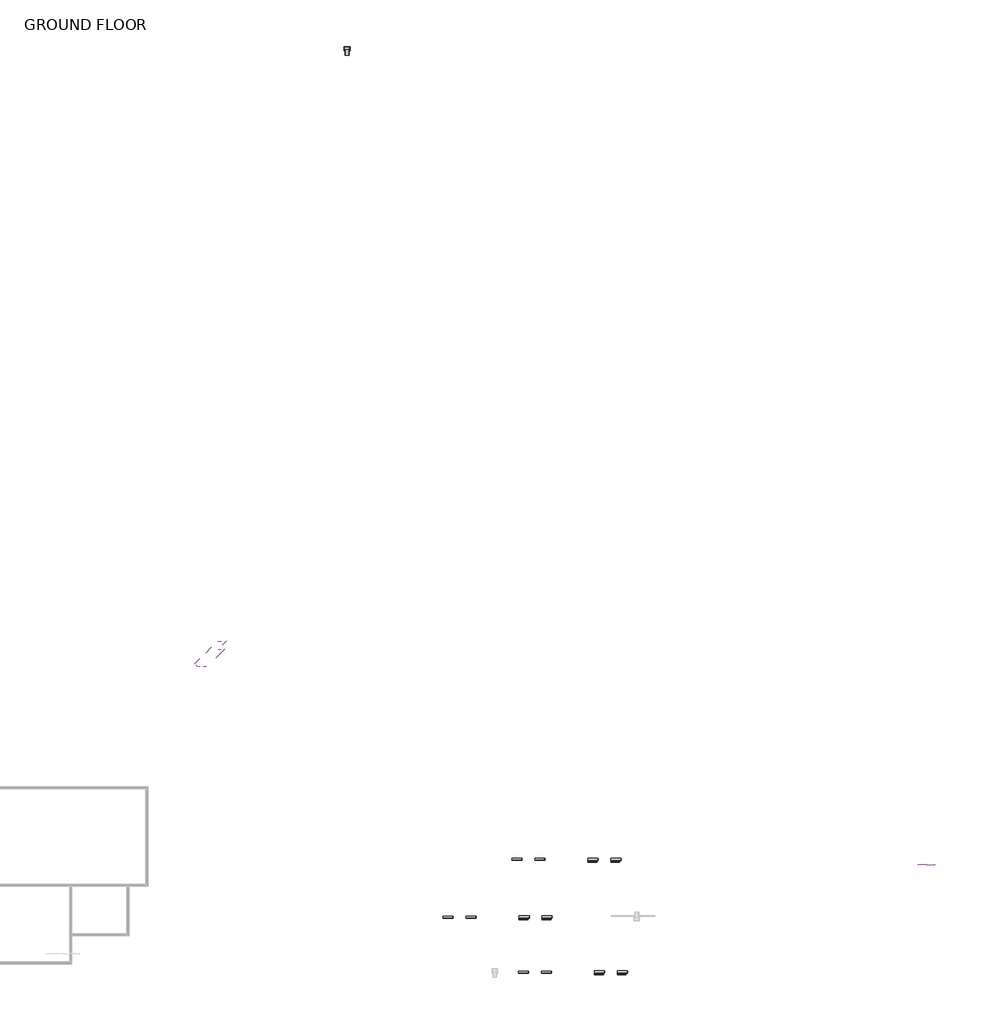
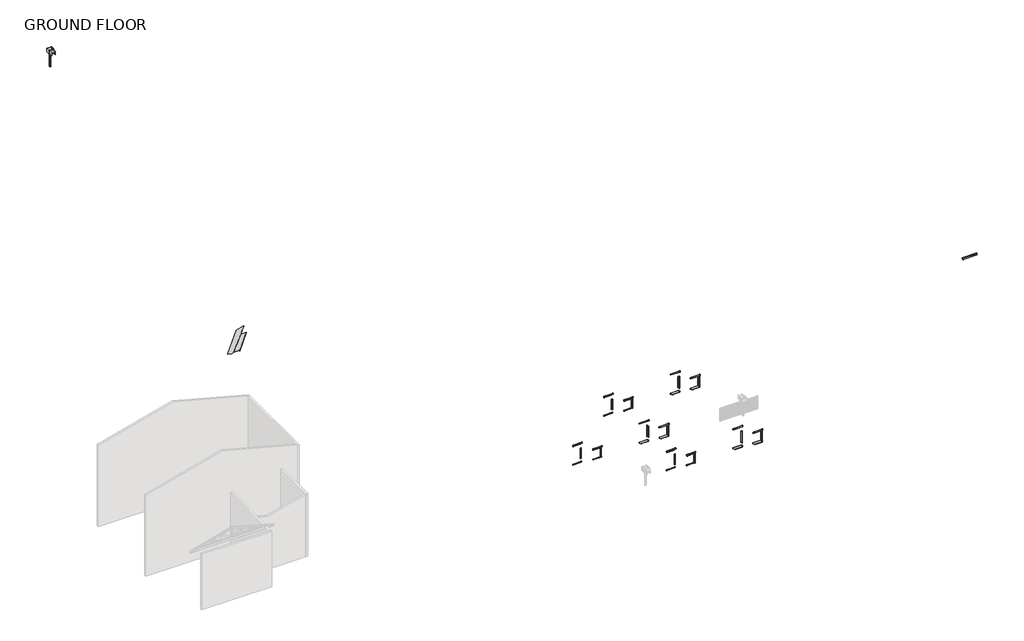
# One storey, part 2 of 2: 47 proxies, 1 furniture element.
"""IFC4 building model written with IfcOpenShell, lengths in millimetres."""

from ifc_helpers import new_model, si_unit, origin, place, context, project, spatial, transform, mapped, element, save
from components import generic_models_fef78faf, compressible_foam_seal2_compressible_foam_seal_1ec0a699, compressible_foam_seal3_compressible_foam_seal_00045a2d, compressible_foam_seal4_compressible_foam_seal_b4c7230d, compressible_foam_seal5_compressible_foam_seal_15a1a777, compressible_foam_seal6_compressible_foam_seal_03053069, compressible_foam_seal7_compressible_foam_seal_46f58d89, flashing_recessed_window_jamb10_flashing_recessed_window_f6a35a29, flashing_recessed_window_jamb11_flashing_recessed_window_a8076ed2, flashing_recessed_window_jamb12_flashing_recessed_window_df369252, flashing_recessed_window_jamb13_flashing_recessed_window_1e06e09a, flashing_recessed_window_jamb14_flashing_recessed_window_10f6c336, flashing_recessed_window_jamb15_flashing_recessed_window_f5ba4824, flashing_recessed_window_jamb16_flashing_recessed_window_d55ca905, flashing_recessed_window_jamb3_flashing_recessed_window_jamb_ab1162f4, flashing_recessed_window_jamb5_flashing_recessed_window_jamb_ac1279b0, flashing_recessed_window_jamb7_flashing_recessed_window_jamb_bc847796, flashing_recessed_window_jamb8_flashing_recessed_window_jamb_318b466f, flashing_recessed_window_jamb9_flashing_recessed_window_jamb_3639ca6a, flush_window_seal_stop_end1_flush_window_seal_stop_end_9bf39d72, flush_window_sill_end1_flush_window_sill_end_4a2a89ea, flush_window_sill_end2_flush_window_sill_end_b6536fee, roof_b_apron_flashing_11_roof_b_apron_flashing_70cea629, roof_b_apron_flashing_15_roof_b_apron_flashing_0355cb7b, roof_b_apron_flashing_16_roof_b_apron_flashing_46ff3092, roof_b_apron_flashing_17_roof_b_apron_flashing_6cb279cc, roof_b_apron_flashing_18_roof_b_apron_flashing_e1c903fb, roof_b_apron_flashing_19_roof_b_apron_flashing_c7f32d68, roof_b_apron_flashing_20_roof_b_apron_flashing_f2a83171, roof_b_apron_flashing_21_roof_b_apron_flashing_e3cc5609, roof_b_apron_flashing_22_roof_b_apron_flashing_11900506, roof_b_apron_flashing_23_roof_b_apron_flashing_f3549268, roof_b_apron_flashing_24_roof_b_apron_flashing_b4c4b611, roof_b_apron_flashing_25_roof_b_apron_flashing_de8b362f, roof_b_apron_flashing_26_roof_b_apron_flashing_4fb7a4d9, roof_b_apron_flashing_27_roof_b_apron_flashing_a0986a9a, roof_b_apron_flashing_28_roof_b_apron_flashing_59df76a3, roof_b_apron_flashing_29_roof_b_apron_flashing_f9d48720, roof_b_apron_flashing_30_roof_b_apron_flashing_073e667e, roof_b_apron_flashing_31_roof_b_apron_flashing_949d8b79, roof_b_apron_flashing_32_roof_b_apron_flashing_3b1e6633, roof_b_apron_flashing_33_roof_b_apron_flashing_7a0176cb, roof_b_apron_flashing_34_roof_b_apron_flashing_aff7704c, roof_b_apron_flashing_4_roof_b_apron_flashing_d52b1472, roof_b_apron_flashing_7_roof_b_apron_flashing_a06f71b5, roof_b_apron_flashing_9_roof_b_apron_flashing_62092195, roof_b_hip_flashing_7_roof_b_hip_flashing_3261cca3, casework_4_casework_1_e42cd1c2

model = new_model("IFC4")

# Units and contexts
model_context = context("Model", 3, world=origin())
ifc_project = project(units=[si_unit("LENGTHUNIT", "METRE", prefix="MILLI")], contexts=[model_context])

# Site, building, storey
site = spatial("IfcSite", under=ifc_project)
building = spatial("IfcBuilding", under=site)
storey = spatial("IfcBuildingStorey", under=building, Name="GROUND FLOOR", Elevation=0.0)

# Proxies
placement = place(None, origin())
generic_models_shape = generic_models_fef78faf(model_context)
element("IfcBuildingElementProxy", 1, Name="Translucent Sheet Stopend Flashing1 : Translucent Sheet Stopend Flashing", ObjectType="Translucent Sheet Stopend Flashing1 : Translucent Sheet Stopend Flashing", at=placement, inside=storey, context=model_context, shape_type="MappedRepresentation", body=[
    mapped(generic_models_shape, transform((0.0, 0.0, 0.0), x_axis=(1.0, 0.0, 0.0), y_axis=(0.0, 1.0, 0.0), z_axis=(0.0, 0.0, 1.0))),
])
compressible_foam_seal2_compressible_foam_seal_shape = compressible_foam_seal2_compressible_foam_seal_1ec0a699(model_context)
element("IfcBuildingElementProxy", 2, Name="Compressible foam seal2 : Compressible foam seal", ObjectType="Compressible foam seal2 : Compressible foam seal", at=placement, inside=storey, context=model_context, shape_type="MappedRepresentation", body=[
    mapped(compressible_foam_seal2_compressible_foam_seal_shape, transform((0.0, 0.0, 0.0), x_axis=(1.0, 0.0, 0.0), y_axis=(0.0, 1.0, 0.0), z_axis=(0.0, 0.0, 1.0))),
])
compressible_foam_seal3_compressible_foam_seal_shape = compressible_foam_seal3_compressible_foam_seal_00045a2d(model_context)
element("IfcBuildingElementProxy", 3, Name="Compressible foam seal3 : Compressible foam seal", ObjectType="Compressible foam seal3 : Compressible foam seal", at=placement, inside=storey, context=model_context, shape_type="MappedRepresentation", body=[
    mapped(compressible_foam_seal3_compressible_foam_seal_shape, transform((0.0, 0.0, 0.0), x_axis=(1.0, 0.0, 0.0), y_axis=(0.0, 1.0, 0.0), z_axis=(0.0, 0.0, 1.0))),
])
compressible_foam_seal4_compressible_foam_seal_shape = compressible_foam_seal4_compressible_foam_seal_b4c7230d(model_context)
element("IfcBuildingElementProxy", 4, Name="Compressible foam seal4 : Compressible foam seal", ObjectType="Compressible foam seal4 : Compressible foam seal", at=placement, inside=storey, context=model_context, shape_type="MappedRepresentation", body=[
    mapped(compressible_foam_seal4_compressible_foam_seal_shape, transform((0.0, 0.0, 0.0), x_axis=(1.0, 0.0, 0.0), y_axis=(0.0, 1.0, 0.0), z_axis=(0.0, 0.0, 1.0))),
])
compressible_foam_seal5_compressible_foam_seal_shape = compressible_foam_seal5_compressible_foam_seal_15a1a777(model_context)
element("IfcBuildingElementProxy", 5, Name="Compressible foam seal5 : Compressible foam seal", ObjectType="Compressible foam seal5 : Compressible foam seal", at=placement, inside=storey, context=model_context, shape_type="MappedRepresentation", body=[
    mapped(compressible_foam_seal5_compressible_foam_seal_shape, transform((0.0, 0.0, 0.0), x_axis=(1.0, 0.0, 0.0), y_axis=(0.0, 1.0, 0.0), z_axis=(0.0, 0.0, 1.0))),
])
compressible_foam_seal6_compressible_foam_seal_shape = compressible_foam_seal6_compressible_foam_seal_03053069(model_context)
element("IfcBuildingElementProxy", 6, Name="Compressible foam seal6 : Compressible foam seal", ObjectType="Compressible foam seal6 : Compressible foam seal", at=placement, inside=storey, context=model_context, shape_type="MappedRepresentation", body=[
    mapped(compressible_foam_seal6_compressible_foam_seal_shape, transform((0.0, 0.0, 0.0), x_axis=(1.0, 0.0, 0.0), y_axis=(0.0, 1.0, 0.0), z_axis=(0.0, 0.0, 1.0))),
])
compressible_foam_seal7_compressible_foam_seal_shape = compressible_foam_seal7_compressible_foam_seal_46f58d89(model_context)
element("IfcBuildingElementProxy", 7, Name="Compressible foam seal7 : Compressible foam seal", ObjectType="Compressible foam seal7 : Compressible foam seal", at=placement, inside=storey, context=model_context, shape_type="MappedRepresentation", body=[
    mapped(compressible_foam_seal7_compressible_foam_seal_shape, transform((0.0, 0.0, 0.0), x_axis=(1.0, 0.0, 0.0), y_axis=(0.0, 1.0, 0.0), z_axis=(0.0, 0.0, 1.0))),
])
flashing_recessed_window_jamb10_flashing_recessed_window_shape = flashing_recessed_window_jamb10_flashing_recessed_window_f6a35a29(model_context)
element("IfcBuildingElementProxy", 8, Name="Flashing_Recessed Window Jamb10 : Flashing_Recessed Window Jamb", ObjectType="Flashing_Recessed Window Jamb10 : Flashing_Recessed Window Jamb", at=placement, inside=storey, context=model_context, shape_type="MappedRepresentation", body=[
    mapped(flashing_recessed_window_jamb10_flashing_recessed_window_shape, transform((0.0, 0.0, 0.0), x_axis=(1.0, 0.0, 0.0), y_axis=(0.0, 1.0, 0.0), z_axis=(0.0, 0.0, 1.0))),
])
flashing_recessed_window_jamb11_flashing_recessed_window_shape = flashing_recessed_window_jamb11_flashing_recessed_window_a8076ed2(model_context)
element("IfcBuildingElementProxy", 9, Name="Flashing_Recessed Window Jamb11 : Flashing_Recessed Window Jamb", ObjectType="Flashing_Recessed Window Jamb11 : Flashing_Recessed Window Jamb", at=placement, inside=storey, context=model_context, shape_type="MappedRepresentation", body=[
    mapped(flashing_recessed_window_jamb11_flashing_recessed_window_shape, transform((0.0, 0.0, 0.0), x_axis=(1.0, 0.0, 0.0), y_axis=(0.0, 1.0, 0.0), z_axis=(0.0, 0.0, 1.0))),
])
flashing_recessed_window_jamb12_flashing_recessed_window_shape = flashing_recessed_window_jamb12_flashing_recessed_window_df369252(model_context)
element("IfcBuildingElementProxy", 10, Name="Flashing_Recessed Window Jamb12 : Flashing_Recessed Window Jamb", ObjectType="Flashing_Recessed Window Jamb12 : Flashing_Recessed Window Jamb", at=placement, inside=storey, context=model_context, shape_type="MappedRepresentation", body=[
    mapped(flashing_recessed_window_jamb12_flashing_recessed_window_shape, transform((0.0, 0.0, 0.0), x_axis=(1.0, 0.0, 0.0), y_axis=(0.0, 1.0, 0.0), z_axis=(0.0, 0.0, 1.0))),
])
flashing_recessed_window_jamb13_flashing_recessed_window_shape = flashing_recessed_window_jamb13_flashing_recessed_window_1e06e09a(model_context)
element("IfcBuildingElementProxy", 11, Name="Flashing_Recessed Window Jamb13 : Flashing_Recessed Window Jamb", ObjectType="Flashing_Recessed Window Jamb13 : Flashing_Recessed Window Jamb", at=placement, inside=storey, context=model_context, shape_type="MappedRepresentation", body=[
    mapped(flashing_recessed_window_jamb13_flashing_recessed_window_shape, transform((0.0, 0.0, 0.0), x_axis=(1.0, 0.0, 0.0), y_axis=(0.0, 1.0, 0.0), z_axis=(0.0, 0.0, 1.0))),
])
flashing_recessed_window_jamb14_flashing_recessed_window_shape = flashing_recessed_window_jamb14_flashing_recessed_window_10f6c336(model_context)
element("IfcBuildingElementProxy", 12, Name="Flashing_Recessed Window Jamb14 : Flashing_Recessed Window Jamb", ObjectType="Flashing_Recessed Window Jamb14 : Flashing_Recessed Window Jamb", at=placement, inside=storey, context=model_context, shape_type="MappedRepresentation", body=[
    mapped(flashing_recessed_window_jamb14_flashing_recessed_window_shape, transform((0.0, 0.0, 0.0), x_axis=(1.0, 0.0, 0.0), y_axis=(0.0, 1.0, 0.0), z_axis=(0.0, 0.0, 1.0))),
])
flashing_recessed_window_jamb15_flashing_recessed_window_shape = flashing_recessed_window_jamb15_flashing_recessed_window_f5ba4824(model_context)
element("IfcBuildingElementProxy", 13, Name="Flashing_Recessed Window Jamb15 : Flashing_Recessed Window Jamb", ObjectType="Flashing_Recessed Window Jamb15 : Flashing_Recessed Window Jamb", at=placement, inside=storey, context=model_context, shape_type="MappedRepresentation", body=[
    mapped(flashing_recessed_window_jamb15_flashing_recessed_window_shape, transform((0.0, 0.0, 350.0), x_axis=(1.0, 0.0, 0.0), y_axis=(0.0, 1.0, 0.0), z_axis=(0.0, 0.0, 1.0))),
])
flashing_recessed_window_jamb16_flashing_recessed_window_shape = flashing_recessed_window_jamb16_flashing_recessed_window_d55ca905(model_context)
element("IfcBuildingElementProxy", 14, Name="Flashing_Recessed Window Jamb16 : Flashing_Recessed Window Jamb", ObjectType="Flashing_Recessed Window Jamb16 : Flashing_Recessed Window Jamb", at=placement, inside=storey, context=model_context, shape_type="MappedRepresentation", body=[
    mapped(flashing_recessed_window_jamb16_flashing_recessed_window_shape, transform((0.0, 0.0, 250.0), x_axis=(1.0, 0.0, 0.0), y_axis=(0.0, 1.0, 0.0), z_axis=(0.0, 0.0, 1.0))),
])
flashing_recessed_window_jamb3_flashing_recessed_window_jamb_shape = flashing_recessed_window_jamb3_flashing_recessed_window_jamb_ab1162f4(model_context)
element("IfcBuildingElementProxy", 15, Name="Flashing_Recessed Window Jamb3 : Flashing_Recessed Window Jamb", ObjectType="Flashing_Recessed Window Jamb3 : Flashing_Recessed Window Jamb", at=placement, inside=storey, context=model_context, shape_type="MappedRepresentation", body=[
    mapped(flashing_recessed_window_jamb3_flashing_recessed_window_jamb_shape, transform((0.0, 0.0, 0.0), x_axis=(1.0, 0.0, 0.0), y_axis=(0.0, 1.0, 0.0), z_axis=(0.0, 0.0, 1.0))),
])
flashing_recessed_window_jamb5_flashing_recessed_window_jamb_shape = flashing_recessed_window_jamb5_flashing_recessed_window_jamb_ac1279b0(model_context)
element("IfcBuildingElementProxy", 16, Name="Flashing_Recessed Window Jamb5 : Flashing_Recessed Window Jamb", ObjectType="Flashing_Recessed Window Jamb5 : Flashing_Recessed Window Jamb", at=placement, inside=storey, context=model_context, shape_type="MappedRepresentation", body=[
    mapped(flashing_recessed_window_jamb5_flashing_recessed_window_jamb_shape, transform((0.0, 0.0, 0.0), x_axis=(1.0, 0.0, 0.0), y_axis=(0.0, 1.0, 0.0), z_axis=(0.0, 0.0, 1.0))),
])
flashing_recessed_window_jamb7_flashing_recessed_window_jamb_shape = flashing_recessed_window_jamb7_flashing_recessed_window_jamb_bc847796(model_context)
element("IfcBuildingElementProxy", 17, Name="Flashing_Recessed Window Jamb7 : Flashing_Recessed Window Jamb", ObjectType="Flashing_Recessed Window Jamb7 : Flashing_Recessed Window Jamb", at=placement, inside=storey, context=model_context, shape_type="MappedRepresentation", body=[
    mapped(flashing_recessed_window_jamb7_flashing_recessed_window_jamb_shape, transform((0.0, 0.0, 350.0), x_axis=(1.0, 0.0, 0.0), y_axis=(0.0, 1.0, 0.0), z_axis=(0.0, 0.0, 1.0))),
])
flashing_recessed_window_jamb8_flashing_recessed_window_jamb_shape = flashing_recessed_window_jamb8_flashing_recessed_window_jamb_318b466f(model_context)
element("IfcBuildingElementProxy", 18, Name="Flashing_Recessed Window Jamb8 : Flashing_Recessed Window Jamb", ObjectType="Flashing_Recessed Window Jamb8 : Flashing_Recessed Window Jamb", at=placement, inside=storey, context=model_context, shape_type="MappedRepresentation", body=[
    mapped(flashing_recessed_window_jamb8_flashing_recessed_window_jamb_shape, transform((0.0, 0.0, 230.0), x_axis=(1.0, 0.0, 0.0), y_axis=(0.0, 1.0, 0.0), z_axis=(0.0, 0.0, 1.0))),
])
flashing_recessed_window_jamb9_flashing_recessed_window_jamb_shape = flashing_recessed_window_jamb9_flashing_recessed_window_jamb_3639ca6a(model_context)
element("IfcBuildingElementProxy", 19, Name="Flashing_Recessed Window Jamb9 : Flashing_Recessed Window Jamb", ObjectType="Flashing_Recessed Window Jamb9 : Flashing_Recessed Window Jamb", at=placement, inside=storey, context=model_context, shape_type="MappedRepresentation", body=[
    mapped(flashing_recessed_window_jamb9_flashing_recessed_window_jamb_shape, transform((0.0, 0.0, 0.0), x_axis=(1.0, 0.0, 0.0), y_axis=(0.0, 1.0, 0.0), z_axis=(0.0, 0.0, 1.0))),
])
flush_window_seal_stop_end1_flush_window_seal_stop_end_shape = flush_window_seal_stop_end1_flush_window_seal_stop_end_9bf39d72(model_context)
element("IfcBuildingElementProxy", 20, Name="Flush Window Seal Stop End1 : Flush Window Seal Stop End", ObjectType="Flush Window Seal Stop End1 : Flush Window Seal Stop End", at=placement, inside=storey, context=model_context, shape_type="MappedRepresentation", body=[
    mapped(flush_window_seal_stop_end1_flush_window_seal_stop_end_shape, transform((0.0, 0.0, 0.0), x_axis=(1.0, 0.0, 0.0), y_axis=(0.0, 1.0, 0.0), z_axis=(0.0, 0.0, 1.0))),
])
flush_window_sill_end1_flush_window_sill_end_shape = flush_window_sill_end1_flush_window_sill_end_4a2a89ea(model_context)
element("IfcBuildingElementProxy", 21, Name="Flush window sill end1 : Flush window sill end", ObjectType="Flush window sill end1 : Flush window sill end", at=placement, inside=storey, context=model_context, shape_type="MappedRepresentation", body=[
    mapped(flush_window_sill_end1_flush_window_sill_end_shape, transform((0.0, 0.0, 0.0), x_axis=(1.0, 0.0, 0.0), y_axis=(0.0, 1.0, 0.0), z_axis=(0.0, 0.0, 1.0))),
])
flush_window_sill_end2_flush_window_sill_end_shape = flush_window_sill_end2_flush_window_sill_end_b6536fee(model_context)
element("IfcBuildingElementProxy", 22, Name="Flush window sill end2 : Flush window sill end", ObjectType="Flush window sill end2 : Flush window sill end", at=placement, inside=storey, context=model_context, shape_type="MappedRepresentation", body=[
    mapped(flush_window_sill_end2_flush_window_sill_end_shape, transform((0.0, 0.0, 0.0), x_axis=(1.0, 0.0, 0.0), y_axis=(0.0, 1.0, 0.0), z_axis=(0.0, 0.0, 1.0))),
])
roof_b_apron_flashing_11_roof_b_apron_flashing_shape = roof_b_apron_flashing_11_roof_b_apron_flashing_70cea629(model_context)
element("IfcBuildingElementProxy", 23, Name="Roof B - Apron Flashing 11 : Roof B Apron Flashing", ObjectType="Roof B - Apron Flashing 11 : Roof B Apron Flashing", at=placement, inside=storey, context=model_context, shape_type="MappedRepresentation", body=[
    mapped(roof_b_apron_flashing_11_roof_b_apron_flashing_shape, transform((0.0, 0.0, 0.0), x_axis=(1.0, 0.0, 0.0), y_axis=(0.0, 1.0, 0.0), z_axis=(0.0, 0.0, 1.0))),
])
roof_b_apron_flashing_15_roof_b_apron_flashing_shape = roof_b_apron_flashing_15_roof_b_apron_flashing_0355cb7b(model_context)
element("IfcBuildingElementProxy", 24, Name="Roof B - Apron Flashing 15 : Roof B Apron Flashing", ObjectType="Roof B - Apron Flashing 15 : Roof B Apron Flashing", at=placement, inside=storey, context=model_context, shape_type="MappedRepresentation", body=[
    mapped(roof_b_apron_flashing_15_roof_b_apron_flashing_shape, transform((0.0, 0.0, 0.0), x_axis=(1.0, 0.0, 0.0), y_axis=(0.0, 1.0, 0.0), z_axis=(0.0, 0.0, 1.0))),
])
roof_b_apron_flashing_16_roof_b_apron_flashing_shape = roof_b_apron_flashing_16_roof_b_apron_flashing_46ff3092(model_context)
element("IfcBuildingElementProxy", 25, Name="Roof B - Apron Flashing 16 : Roof B Apron Flashing", ObjectType="Roof B - Apron Flashing 16 : Roof B Apron Flashing", at=placement, inside=storey, context=model_context, shape_type="MappedRepresentation", body=[
    mapped(roof_b_apron_flashing_16_roof_b_apron_flashing_shape, transform((0.0, 0.0, 100.0), x_axis=(1.0, 0.0, 0.0), y_axis=(0.0, 1.0, 0.0), z_axis=(0.0, 0.0, 1.0))),
])
roof_b_apron_flashing_17_roof_b_apron_flashing_shape = roof_b_apron_flashing_17_roof_b_apron_flashing_6cb279cc(model_context)
element("IfcBuildingElementProxy", 26, Name="Roof B - Apron Flashing 17 : Roof B Apron Flashing", ObjectType="Roof B - Apron Flashing 17 : Roof B Apron Flashing", at=placement, inside=storey, context=model_context, shape_type="MappedRepresentation", body=[
    mapped(roof_b_apron_flashing_17_roof_b_apron_flashing_shape, transform((0.0, 0.0, 650.0), x_axis=(1.0, 0.0, 0.0), y_axis=(0.0, 1.0, 0.0), z_axis=(0.0, 0.0, 1.0))),
])
roof_b_apron_flashing_18_roof_b_apron_flashing_shape = roof_b_apron_flashing_18_roof_b_apron_flashing_e1c903fb(model_context)
element("IfcBuildingElementProxy", 27, Name="Roof B - Apron Flashing 18 : Roof B Apron Flashing", ObjectType="Roof B - Apron Flashing 18 : Roof B Apron Flashing", at=placement, inside=storey, context=model_context, shape_type="MappedRepresentation", body=[
    mapped(roof_b_apron_flashing_18_roof_b_apron_flashing_shape, transform((0.0, 0.0, 550.0), x_axis=(1.0, 0.0, 0.0), y_axis=(0.0, 1.0, 0.0), z_axis=(0.0, 0.0, 1.0))),
])
roof_b_apron_flashing_19_roof_b_apron_flashing_shape = roof_b_apron_flashing_19_roof_b_apron_flashing_c7f32d68(model_context)
element("IfcBuildingElementProxy", 28, Name="Roof B - Apron Flashing 19 : Roof B Apron Flashing", ObjectType="Roof B - Apron Flashing 19 : Roof B Apron Flashing", at=placement, inside=storey, context=model_context, shape_type="MappedRepresentation", body=[
    mapped(roof_b_apron_flashing_19_roof_b_apron_flashing_shape, transform((0.0, 0.0, 0.0), x_axis=(1.0, 0.0, 0.0), y_axis=(0.0, 1.0, 0.0), z_axis=(0.0, 0.0, 1.0))),
])
roof_b_apron_flashing_20_roof_b_apron_flashing_shape = roof_b_apron_flashing_20_roof_b_apron_flashing_f2a83171(model_context)
element("IfcBuildingElementProxy", 29, Name="Roof B - Apron Flashing 20 : Roof B Apron Flashing", ObjectType="Roof B - Apron Flashing 20 : Roof B Apron Flashing", at=placement, inside=storey, context=model_context, shape_type="MappedRepresentation", body=[
    mapped(roof_b_apron_flashing_20_roof_b_apron_flashing_shape, transform((0.0, 0.0, 0.0), x_axis=(1.0, 0.0, 0.0), y_axis=(0.0, 1.0, 0.0), z_axis=(0.0, 0.0, 1.0))),
])
roof_b_apron_flashing_21_roof_b_apron_flashing_shape = roof_b_apron_flashing_21_roof_b_apron_flashing_e3cc5609(model_context)
element("IfcBuildingElementProxy", 30, Name="Roof B - Apron Flashing 21 : Roof B Apron Flashing", ObjectType="Roof B - Apron Flashing 21 : Roof B Apron Flashing", at=placement, inside=storey, context=model_context, shape_type="MappedRepresentation", body=[
    mapped(roof_b_apron_flashing_21_roof_b_apron_flashing_shape, transform((0.0, 0.0, 0.0), x_axis=(1.0, 0.0, 0.0), y_axis=(0.0, 1.0, 0.0), z_axis=(0.0, 0.0, 1.0))),
])
roof_b_apron_flashing_22_roof_b_apron_flashing_shape = roof_b_apron_flashing_22_roof_b_apron_flashing_11900506(model_context)
element("IfcBuildingElementProxy", 31, Name="Roof B - Apron Flashing 22 : Roof B Apron Flashing", ObjectType="Roof B - Apron Flashing 22 : Roof B Apron Flashing", at=placement, inside=storey, context=model_context, shape_type="MappedRepresentation", body=[
    mapped(roof_b_apron_flashing_22_roof_b_apron_flashing_shape, transform((0.0, 0.0, 0.0), x_axis=(1.0, 0.0, 0.0), y_axis=(0.0, 1.0, 0.0), z_axis=(0.0, 0.0, 1.0))),
])
roof_b_apron_flashing_23_roof_b_apron_flashing_shape = roof_b_apron_flashing_23_roof_b_apron_flashing_f3549268(model_context)
element("IfcBuildingElementProxy", 32, Name="Roof B - Apron Flashing 23 : Roof B Apron Flashing", ObjectType="Roof B - Apron Flashing 23 : Roof B Apron Flashing", at=placement, inside=storey, context=model_context, shape_type="MappedRepresentation", body=[
    mapped(roof_b_apron_flashing_23_roof_b_apron_flashing_shape, transform((0.0, 0.0, 0.0), x_axis=(1.0, 0.0, 0.0), y_axis=(0.0, 1.0, 0.0), z_axis=(0.0, 0.0, 1.0))),
])
roof_b_apron_flashing_24_roof_b_apron_flashing_shape = roof_b_apron_flashing_24_roof_b_apron_flashing_b4c4b611(model_context)
element("IfcBuildingElementProxy", 33, Name="Roof B - Apron Flashing 24 : Roof B Apron Flashing", ObjectType="Roof B - Apron Flashing 24 : Roof B Apron Flashing", at=placement, inside=storey, context=model_context, shape_type="MappedRepresentation", body=[
    mapped(roof_b_apron_flashing_24_roof_b_apron_flashing_shape, transform((0.0, 0.0, 100.0), x_axis=(1.0, 0.0, 0.0), y_axis=(0.0, 1.0, 0.0), z_axis=(0.0, 0.0, 1.0))),
])
roof_b_apron_flashing_25_roof_b_apron_flashing_shape = roof_b_apron_flashing_25_roof_b_apron_flashing_de8b362f(model_context)
element("IfcBuildingElementProxy", 34, Name="Roof B - Apron Flashing 25 : Roof B Apron Flashing", ObjectType="Roof B - Apron Flashing 25 : Roof B Apron Flashing", at=placement, inside=storey, context=model_context, shape_type="MappedRepresentation", body=[
    mapped(roof_b_apron_flashing_25_roof_b_apron_flashing_shape, transform((0.0, 0.0, 650.0), x_axis=(1.0, 0.0, 0.0), y_axis=(0.0, 1.0, 0.0), z_axis=(0.0, 0.0, 1.0))),
])
roof_b_apron_flashing_26_roof_b_apron_flashing_shape = roof_b_apron_flashing_26_roof_b_apron_flashing_4fb7a4d9(model_context)
element("IfcBuildingElementProxy", 35, Name="Roof B - Apron Flashing 26 : Roof B Apron Flashing", ObjectType="Roof B - Apron Flashing 26 : Roof B Apron Flashing", at=placement, inside=storey, context=model_context, shape_type="MappedRepresentation", body=[
    mapped(roof_b_apron_flashing_26_roof_b_apron_flashing_shape, transform((0.0, 0.0, 550.0), x_axis=(1.0, 0.0, 0.0), y_axis=(0.0, 1.0, 0.0), z_axis=(0.0, 0.0, 1.0))),
])
roof_b_apron_flashing_27_roof_b_apron_flashing_shape = roof_b_apron_flashing_27_roof_b_apron_flashing_a0986a9a(model_context)
element("IfcBuildingElementProxy", 36, Name="Roof B - Apron Flashing 27 : Roof B Apron Flashing", ObjectType="Roof B - Apron Flashing 27 : Roof B Apron Flashing", at=placement, inside=storey, context=model_context, shape_type="MappedRepresentation", body=[
    mapped(roof_b_apron_flashing_27_roof_b_apron_flashing_shape, transform((0.0, 0.0, 0.0), x_axis=(1.0, 0.0, 0.0), y_axis=(0.0, 1.0, 0.0), z_axis=(0.0, 0.0, 1.0))),
])
roof_b_apron_flashing_28_roof_b_apron_flashing_shape = roof_b_apron_flashing_28_roof_b_apron_flashing_59df76a3(model_context)
element("IfcBuildingElementProxy", 37, Name="Roof B - Apron Flashing 28 : Roof B Apron Flashing", ObjectType="Roof B - Apron Flashing 28 : Roof B Apron Flashing", at=placement, inside=storey, context=model_context, shape_type="MappedRepresentation", body=[
    mapped(roof_b_apron_flashing_28_roof_b_apron_flashing_shape, transform((0.0, 0.0, 0.0), x_axis=(1.0, 0.0, 0.0), y_axis=(0.0, 1.0, 0.0), z_axis=(0.0, 0.0, 1.0))),
])
roof_b_apron_flashing_29_roof_b_apron_flashing_shape = roof_b_apron_flashing_29_roof_b_apron_flashing_f9d48720(model_context)
element("IfcBuildingElementProxy", 38, Name="Roof B - Apron Flashing 29 : Roof B Apron Flashing", ObjectType="Roof B - Apron Flashing 29 : Roof B Apron Flashing", at=placement, inside=storey, context=model_context, shape_type="MappedRepresentation", body=[
    mapped(roof_b_apron_flashing_29_roof_b_apron_flashing_shape, transform((0.0, 0.0, 0.0), x_axis=(1.0, 0.0, 0.0), y_axis=(0.0, 1.0, 0.0), z_axis=(0.0, 0.0, 1.0))),
])
roof_b_apron_flashing_30_roof_b_apron_flashing_shape = roof_b_apron_flashing_30_roof_b_apron_flashing_073e667e(model_context)
element("IfcBuildingElementProxy", 39, Name="Roof B - Apron Flashing 30 : Roof B Apron Flashing", ObjectType="Roof B - Apron Flashing 30 : Roof B Apron Flashing", at=placement, inside=storey, context=model_context, shape_type="MappedRepresentation", body=[
    mapped(roof_b_apron_flashing_30_roof_b_apron_flashing_shape, transform((0.0, 0.0, 0.0), x_axis=(1.0, 0.0, 0.0), y_axis=(0.0, 1.0, 0.0), z_axis=(0.0, 0.0, 1.0))),
])
roof_b_apron_flashing_31_roof_b_apron_flashing_shape = roof_b_apron_flashing_31_roof_b_apron_flashing_949d8b79(model_context)
element("IfcBuildingElementProxy", 40, Name="Roof B - Apron Flashing 31 : Roof B Apron Flashing", ObjectType="Roof B - Apron Flashing 31 : Roof B Apron Flashing", at=placement, inside=storey, context=model_context, shape_type="MappedRepresentation", body=[
    mapped(roof_b_apron_flashing_31_roof_b_apron_flashing_shape, transform((0.0, 0.0, 0.0), x_axis=(1.0, 0.0, 0.0), y_axis=(0.0, 1.0, 0.0), z_axis=(0.0, 0.0, 1.0))),
])
roof_b_apron_flashing_32_roof_b_apron_flashing_shape = roof_b_apron_flashing_32_roof_b_apron_flashing_3b1e6633(model_context)
element("IfcBuildingElementProxy", 41, Name="Roof B - Apron Flashing 32 : Roof B Apron Flashing", ObjectType="Roof B - Apron Flashing 32 : Roof B Apron Flashing", at=placement, inside=storey, context=model_context, shape_type="MappedRepresentation", body=[
    mapped(roof_b_apron_flashing_32_roof_b_apron_flashing_shape, transform((0.0, 0.0, 100.0), x_axis=(1.0, 0.0, 0.0), y_axis=(0.0, 1.0, 0.0), z_axis=(0.0, 0.0, 1.0))),
])
roof_b_apron_flashing_33_roof_b_apron_flashing_shape = roof_b_apron_flashing_33_roof_b_apron_flashing_7a0176cb(model_context)
element("IfcBuildingElementProxy", 42, Name="Roof B - Apron Flashing 33 : Roof B Apron Flashing", ObjectType="Roof B - Apron Flashing 33 : Roof B Apron Flashing", at=placement, inside=storey, context=model_context, shape_type="MappedRepresentation", body=[
    mapped(roof_b_apron_flashing_33_roof_b_apron_flashing_shape, transform((0.0, 0.0, 650.0), x_axis=(1.0, 0.0, 0.0), y_axis=(0.0, 1.0, 0.0), z_axis=(0.0, 0.0, 1.0))),
])
roof_b_apron_flashing_34_roof_b_apron_flashing_shape = roof_b_apron_flashing_34_roof_b_apron_flashing_aff7704c(model_context)
element("IfcBuildingElementProxy", 43, Name="Roof B - Apron Flashing 34 : Roof B Apron Flashing", ObjectType="Roof B - Apron Flashing 34 : Roof B Apron Flashing", at=placement, inside=storey, context=model_context, shape_type="MappedRepresentation", body=[
    mapped(roof_b_apron_flashing_34_roof_b_apron_flashing_shape, transform((0.0, 0.0, 550.0), x_axis=(1.0, 0.0, 0.0), y_axis=(0.0, 1.0, 0.0), z_axis=(0.0, 0.0, 1.0))),
])
roof_b_apron_flashing_4_roof_b_apron_flashing_shape = roof_b_apron_flashing_4_roof_b_apron_flashing_d52b1472(model_context)
element("IfcBuildingElementProxy", 44, Name="Roof B - Apron Flashing 4 : Roof B Apron Flashing", ObjectType="Roof B - Apron Flashing 4 : Roof B Apron Flashing", at=placement, inside=storey, context=model_context, shape_type="MappedRepresentation", body=[
    mapped(roof_b_apron_flashing_4_roof_b_apron_flashing_shape, transform((0.0, 0.0, 0.0), x_axis=(1.0, 0.0, 0.0), y_axis=(0.0, 1.0, 0.0), z_axis=(0.0, 0.0, 1.0))),
])
roof_b_apron_flashing_7_roof_b_apron_flashing_shape = roof_b_apron_flashing_7_roof_b_apron_flashing_a06f71b5(model_context)
element("IfcBuildingElementProxy", 45, Name="Roof B - Apron Flashing 7 : Roof B Apron Flashing", ObjectType="Roof B - Apron Flashing 7 : Roof B Apron Flashing", at=placement, inside=storey, context=model_context, shape_type="MappedRepresentation", body=[
    mapped(roof_b_apron_flashing_7_roof_b_apron_flashing_shape, transform((0.0, 0.0, 0.0), x_axis=(1.0, 0.0, 0.0), y_axis=(0.0, 1.0, 0.0), z_axis=(0.0, 0.0, 1.0))),
])
roof_b_apron_flashing_9_roof_b_apron_flashing_shape = roof_b_apron_flashing_9_roof_b_apron_flashing_62092195(model_context)
element("IfcBuildingElementProxy", 46, Name="Roof B - Apron Flashing 9 : Roof B Apron Flashing", ObjectType="Roof B - Apron Flashing 9 : Roof B Apron Flashing", at=placement, inside=storey, context=model_context, shape_type="MappedRepresentation", body=[
    mapped(roof_b_apron_flashing_9_roof_b_apron_flashing_shape, transform((0.0, 0.0, 0.0), x_axis=(1.0, 0.0, 0.0), y_axis=(0.0, 1.0, 0.0), z_axis=(0.0, 0.0, 1.0))),
])
roof_b_hip_flashing_7_roof_b_hip_flashing_shape = roof_b_hip_flashing_7_roof_b_hip_flashing_3261cca3(model_context)
element("IfcBuildingElementProxy", 47, Name="Roof B - Hip Flashing 7 : Roof B Hip Flashing", ObjectType="Roof B - Hip Flashing 7 : Roof B Hip Flashing", at=placement, inside=storey, context=model_context, shape_type="MappedRepresentation", body=[
    mapped(roof_b_hip_flashing_7_roof_b_hip_flashing_shape, transform((-1.0811661, 3397.2506479, -542.1709719), x_axis=(1.0, 0.0, 0.0), y_axis=(0.0, 1.0, 0.0), z_axis=(0.0, 0.0, 1.0))),
])

# Furniture
casework_4_casework_1_shape = casework_4_casework_1_e42cd1c2(model_context)
element("IfcFurniture", 48, ObjectType="Casework 4 : Casework 1", at=placement, inside=storey, context=model_context, shape_type="MappedRepresentation", body=[
    mapped(casework_4_casework_1_shape, transform((11420.8546546, 1265.6203554, 8214.3170147), x_axis=(-1.0, 0.0, 0.0), y_axis=(0.0, -1.0, 0.0), z_axis=(0.0, 0.0, 1.0))),
])

save(model, "model.ifc")
